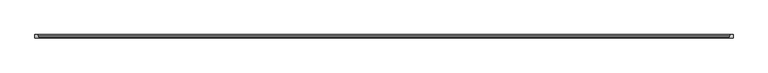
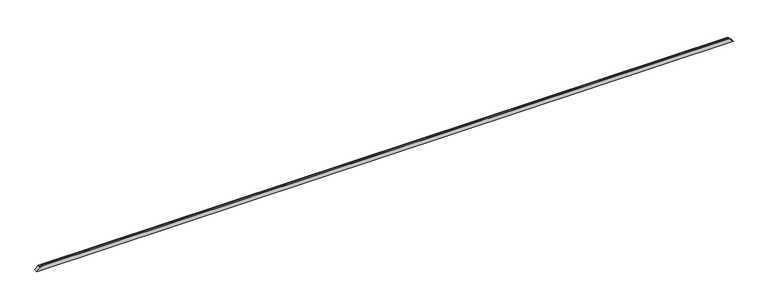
"""IFC4 building model written with IfcOpenShell, lengths in millimetres: proxy geometry, Weiku - Montante - Caixilho 02.2.01.005 : Weiku - Montante - Caixilho 02.2.01.005."""

from ifc_helpers import new_model, si_unit, frame, origin, place, context, project, spatial, ellipse_curve, source, transform, mapped, element, save
from ifc_brep_helpers import plane_surface, cylinder_surface, advanced_brep


def generic_models_ba4691e0(model_context):
    return source(origin(), model_context, "Body", "AdvancedBrep", [
        advanced_brep(
        [(-4951.0, 12.5, 46.0), (-4930.8909676, 12.5, 66.1090324), (4930.8909676, 12.5, 66.1090324), (4951.0, 12.5, 46.0), (-4951.0, 37.8314286, 46.0), (4951.0, 37.8314286, 46.0), (-4948.0, 37.027581, 49.0), (4948.0, 37.027581, 49.0), (-4948.0, 50.0, 49.0), (4948.0, 50.0, 49.0), (4997.0, 50.0, 0.0), (-4997.0, 50.0, 0.0), (4997.0, 0.0, 0.0), (-4997.0, 0.0, 0.0), (4935.4997332, 0.0, 61.5002668), (-4935.4997332, 0.0, 61.5002668), (-4930.118227, 11.4929448, 66.881773), (-4932.6019557, 2.2235429, 64.3980443), (4932.6019557, 2.2235429, 64.3980443), (4930.118227, 11.4929448, 66.881773)],
        [
            (0, 1),
            (1, 2),
            (2, 3),
            (3, 0),
            (4, 0),
            (3, 5),
            (5, 4),
            (6, 4),
            (5, 7),
            (7, 6),
            (8, 6),
            (7, 9),
            (9, 8),
            (10, 11),
            (11, 8),
            (9, 10),
            (10, 12),
            (12, 13),
            (13, 11),
            (12, 14),
            (14, 15),
            (15, 13),
            (16, 17),
            (17, 18),
            (18, 19),
            (19, 16),
            (15, 17, ellipse_curve(frame((-4935.4997332, 3.0, 61.5002668), z_axis=(-0.7071067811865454, 0.0, 0.7071067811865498), x_axis=(-0.7071067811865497, 0.0, -0.7071067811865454)), 4.2426407, 3.0)),
            (16, 1, ellipse_curve(frame((-4930.8909676, 11.7, 66.1090324), z_axis=(-0.7071067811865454, 0.0, 0.7071067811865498), x_axis=(-0.7071067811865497, 0.0, -0.7071067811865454)), 1.1313708, 0.8)),
            (2, 19, ellipse_curve(frame((4930.8909676, 11.7, 66.1090324), z_axis=(0.7071067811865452, 0.0, 0.7071067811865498), x_axis=(-0.7071067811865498, 0.0, 0.7071067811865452)), 1.1313708, 0.8)),
            (18, 14, ellipse_curve(frame((4935.4997332, 3.0, 61.5002668), z_axis=(0.7071067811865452, 0.0, 0.7071067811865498), x_axis=(-0.7071067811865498, 0.0, 0.7071067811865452)), 4.2426407, 3.0)),
        ],
        [
            plane_surface(frame((-4997.0, 12.5, 66.1090324), z_axis=(0.0, 1.0, 0.0), x_axis=(1.0, 0.0, 0.0))),
            plane_surface(frame((-4997.0, 12.5, 46.0), z_axis=(0.0, 0.0, 1.0), x_axis=(1.0, 0.0, 0.0))),
            plane_surface(frame((-4997.0, 37.8314286, 46.0), z_axis=(0.0, -0.9659258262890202, -0.2588190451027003), x_axis=(1.0, 0.0, 0.0))),
            plane_surface(frame((-4997.0, 37.027581, 49.0), z_axis=(0.0, 0.0, 1.0), x_axis=(1.0, 0.0, 0.0))),
            plane_surface(frame((-4997.0, 50.0, 49.0), z_axis=(0.0, 1.0, 0.0), x_axis=(1.0, 0.0, 0.0))),
            plane_surface(frame((-4997.0, 50.0, 0.0), z_axis=(0.0, 0.0, -1.0), x_axis=(1.0, 0.0, 0.0))),
            plane_surface(frame((-4997.0, 0.0, 0.0), z_axis=(0.0, -1.0, 0.0), x_axis=(1.0, 0.0, 0.0))),
            plane_surface(frame((-4997.0, 2.2235429, 64.3980443), z_axis=(0.0, -0.2588190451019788, 0.9659258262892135), x_axis=(1.0, 0.0, 0.0))),
            plane_surface(frame((-5067.0, -15.0, -70.0), z_axis=(-0.7071067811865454, 0.0, 0.7071067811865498), x_axis=(0.0, 1.0, 0.0))),
            plane_surface(frame((4927.0, -15.0, 70.0), z_axis=(0.7071067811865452, 0.0, 0.7071067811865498), x_axis=(0.0, 1.0, 0.0))),
            cylinder_surface(frame((-4997.0, 11.7, 66.1090324), z_axis=(-1.0, 0.0, 0.0), x_axis=(0.0, 1.0, 0.0)), 0.8),
            cylinder_surface(frame((-4997.0, 3.0, 61.5002668), z_axis=(-1.0, 0.0, 0.0), x_axis=(0.0, 1.0, 0.0)), 3.0),
        ],
        [
            (0, [[1, 2, 3, 4]]),
            (1, [[5, -4, 6, 7]]),
            (2, [[8, -7, 9, 10]]),
            (3, [[11, -10, 12, 13]]),
            (4, [[14, 15, -13, 16]]),
            (5, [[-14, 17, 18, 19]]),
            (6, [[-18, 20, 21, 22]]),
            (7, [[23, 24, 25, 26]]),
            (8, [[-1, -5, -8, -11, -15, -19, -22, 27, -23, 28]]),
            (9, [[-3, 29, -25, 30, -20, -17, -16, -12, -9, -6]]),
            (10, [[-28, -26, -29, -2]]),
            (11, [[-27, -21, -30, -24]]),
        ],
    ),
    ])


if __name__ == "__main__":
    model = new_model("IFC4")
    model_context = context("Model", 3, world=origin())
    ifc_project = project(units=[si_unit("LENGTHUNIT", "METRE", prefix="MILLI")], contexts=[model_context])
    site = spatial("IfcSite", under=ifc_project)
    building = spatial("IfcBuilding", under=site)
    placement = place(None, origin())
    generic_models_shape = generic_models_ba4691e0(model_context)
    element("IfcBuildingElementProxy", 1, Name="Weiku - Montante - Caixilho 02.2.01.005 : Weiku - Montante - Caixilho 02.2.01.005", ObjectType="Weiku - Montante - Caixilho 02.2.01.005 : Weiku - Montante - Caixilho 02.2.01.005", at=placement, inside=building, context=model_context, shape_type="MappedRepresentation", body=[
        mapped(generic_models_shape, transform((0.0, 0.0, 0.0), x_axis=(1.0, 0.0, 0.0), y_axis=(0.0, 1.0, 0.0), z_axis=(0.0, 0.0, 1.0))),
    ])
    save(model, "model.ifc")
